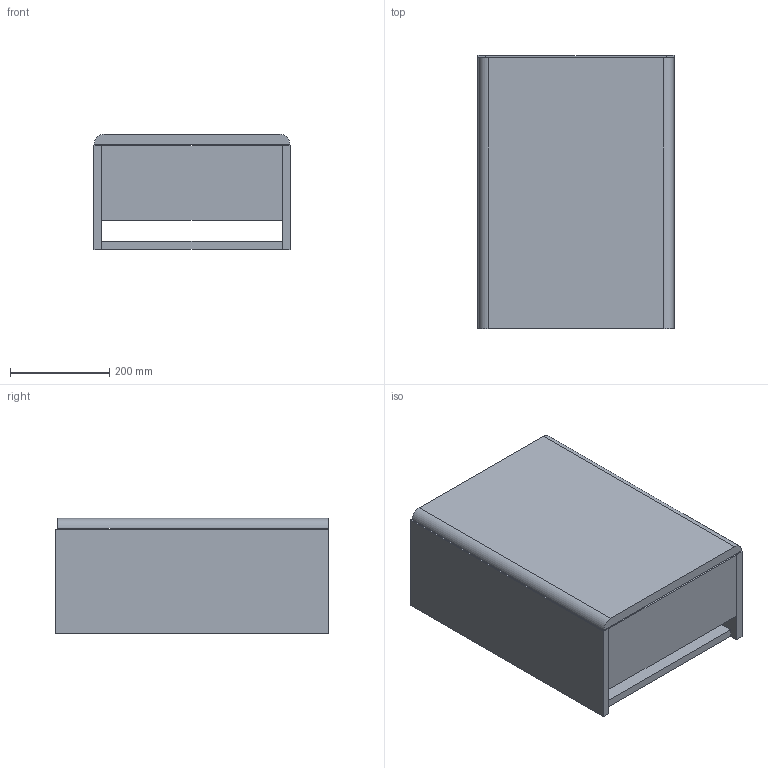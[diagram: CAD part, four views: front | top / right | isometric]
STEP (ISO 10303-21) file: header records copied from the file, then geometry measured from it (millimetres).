
FILE_DESCRIPTION(('FreeCAD Model'),'2;1');
FILE_NAME('Open CASCADE Shape Model','2025-05-30T18:11:02',(''),(''), 'Open CASCADE STEP processor 7.8','FreeCAD','Unknown');
FILE_SCHEMA(('AUTOMOTIVE_DESIGN { 1 0 10303 214 1 1 1 1 }'));
Length unit declared in the file: millimetre
Products named in the file (10): TopLevelAssembly; Wyci\X2\0105\X0\ganie003; Wyci\X2\0105\X0\ganie001; Wyci\X2\0105\X0\ganie002; Wyci\X2\0105\X0\ganie004; Wyci\X2\0105\X0\ganie007; Wyci\X2\0105\X0\ganie005; Wyci\X2\0105\X0\ganie006; Wyci\X2\0105\X0\ganie008; Wyci\X2\0105\X0\ganie009
Assembly tree (9 placements, depth 3):
  TopLevelAssembly
    Wyci\X2\0105\X0\ganie003
      Wyci\X2\0105\X0\ganie001
      Wyci\X2\0105\X0\ganie002
    Wyci\X2\0105\X0\ganie004
    Wyci\X2\0105\X0\ganie007
      Wyci\X2\0105\X0\ganie005
      Wyci\X2\0105\X0\ganie006
    Wyci\X2\0105\X0\ganie008
    Wyci\X2\0105\X0\ganie009
Bounding box: 395 x 550 x 232 mm (x, y, z)
Volume: 10325493.6 mm3; surface area: 1331654 mm2
Topology: 7 solids, 7 shells, 42 faces, 84 edges, 56 vertices
Faces by surface type: plane 40, cylinder 2
Entity records: 1304 total; most frequent: CARTESIAN_POINT 192, DIRECTION 192, ORIENTED_EDGE 168, EDGE_CURVE 84, LINE 80, VECTOR 80, AXIS2_PLACEMENT_3D 56, VERTEX_POINT 56
